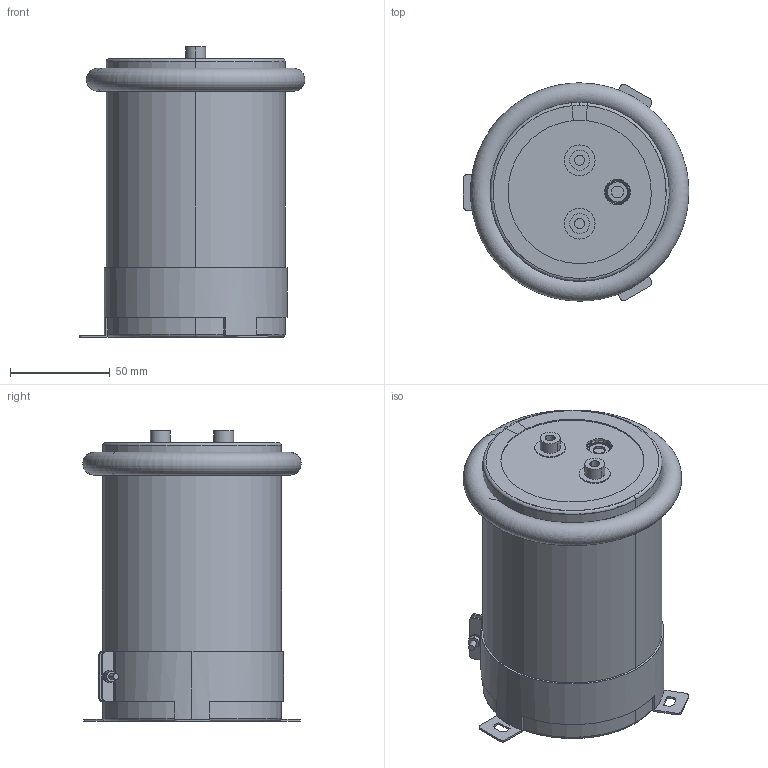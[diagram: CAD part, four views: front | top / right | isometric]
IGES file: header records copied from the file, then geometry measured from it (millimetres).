
Start section: 3D InterOp IGES (v. 2019 1.0.2), Spatial Corp. Copyright (c) 1999-2017.
Global section: file name: 90x140_Screw.igs; native system: Spatial Corp.; preprocessor: 3D InterOp ACIS/IGES; author: Noname; organization: Noname; date: 20220314.175845; units: millimetre
Bounding box: 113.35 x 109.7 x 146 mm (x, y, z)
Volume: 1235329.2 mm3; surface area: 298885.4 mm2
Topology: 9 solids, 9 shells, 352 faces, 953 edges, 591 vertices
Faces by surface type: plane 112, cylinder 110, torus 90, cone 38, sphere 2
